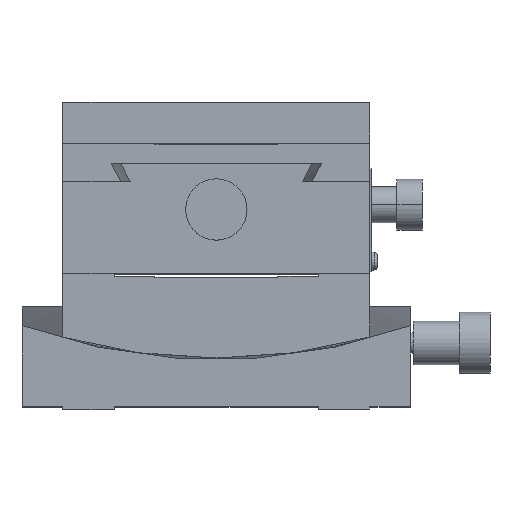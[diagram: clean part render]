
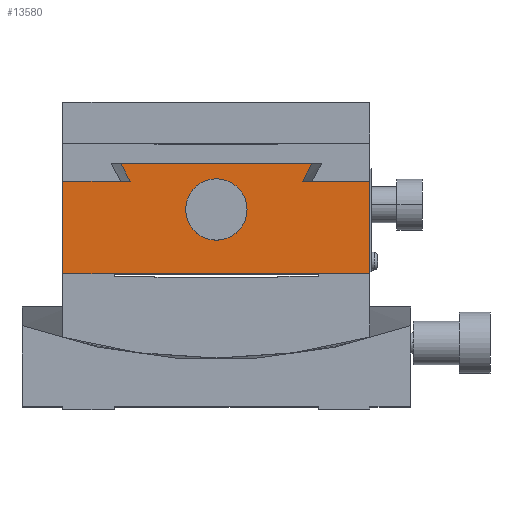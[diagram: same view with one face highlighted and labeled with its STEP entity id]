
A CAD part, top view. The second image highlights one B-rep face of the part: STEP entity #13580.
In plain terms, the highlighted planar face has unit normal (0, 0, 1).
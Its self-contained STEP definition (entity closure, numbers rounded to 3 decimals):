
#11162 = CARTESIAN_POINT ( 'NONE',  ( -16.863, 44.517, 38. ) ) ;
#11163 = DIRECTION ( 'NONE',  ( 1., 0., 0. ) ) ;
#11164 = VECTOR ( 'NONE', #11163, 1000. ) ;
#11165 = CARTESIAN_POINT ( 'NONE',  ( 0., 44.517, 38. ) ) ;
#11166 = LINE ( 'NONE', #11165, #11164 ) ;
#11167 = CARTESIAN_POINT ( 'NONE',  ( -30., 44.517, 38. ) ) ;
#11459 = FACE_BOUND ( 'NONE', #13771, .T. ) ;
#11460 = FACE_OUTER_BOUND ( 'NONE', #13581, .T. ) ;
#11529 = CARTESIAN_POINT ( 'NONE',  ( -18.66, 48., 38. ) ) ;
#11530 = CARTESIAN_POINT ( 'NONE',  ( -18.063, 46.838, 38. ) ) ;
#11531 = CARTESIAN_POINT ( 'NONE',  ( -17.464, 45.677, 38. ) ) ;
#11532 = CARTESIAN_POINT ( 'NONE',  ( -16.863, 44.517, 38. ) ) ;
#11535 = B_SPLINE_CURVE_WITH_KNOTS ( 'NONE', 3,
 ( #11532, #11531, #11530, #11529 ),
 .UNSPECIFIED., .F., .F.,
 ( 4, 4 ),
 ( 0.025, 0.029 ),
 .UNSPECIFIED. ) ;
#11536 = CARTESIAN_POINT ( 'NONE',  ( -18.66, 48., 38. ) ) ;
#11537 = DIRECTION ( 'NONE',  ( 1., 0., 0. ) ) ;
#11538 = VECTOR ( 'NONE', #11537, 1000. ) ;
#11539 = CARTESIAN_POINT ( 'NONE',  ( -30., 48., 38. ) ) ;
#11540 = LINE ( 'NONE', #11539, #11538 ) ;
#11541 = CARTESIAN_POINT ( 'NONE',  ( 16.863, 44.517, 38. ) ) ;
#11542 = CARTESIAN_POINT ( 'NONE',  ( 17.464, 45.677, 38. ) ) ;
#11543 = CARTESIAN_POINT ( 'NONE',  ( 18.063, 46.838, 38. ) ) ;
#11544 = CARTESIAN_POINT ( 'NONE',  ( 18.66, 48., 38. ) ) ;
#11545 = CARTESIAN_POINT ( 'NONE',  ( 18.66, 48., 38. ) ) ;
#11546 = B_SPLINE_CURVE_WITH_KNOTS ( 'NONE', 3,
 ( #11544, #11543, #11542, #11541 ),
 .UNSPECIFIED., .F., .F.,
 ( 4, 4 ),
 ( 0.021, 0.025 ),
 .UNSPECIFIED. ) ;
#11547 = CARTESIAN_POINT ( 'NONE',  ( 16.863, 44.517, 38. ) ) ;
#11548 = DIRECTION ( 'NONE',  ( -1., 0., 0. ) ) ;
#11549 = DIRECTION ( 'NONE',  ( 0., 0., -1. ) ) ;
#11550 = CARTESIAN_POINT ( 'NONE',  ( -30., 26.5, 38. ) ) ;
#11551 = AXIS2_PLACEMENT_3D ( 'NONE', #11550, #11549, #11548 ) ;
#11552 = PLANE ( 'NONE',  #11551 ) ;
#11621 = CARTESIAN_POINT ( 'NONE',  ( 2., 39., 38. ) ) ;
#11691 = CARTESIAN_POINT ( 'NONE',  ( -2., 39., 38. ) ) ;
#11692 = DIRECTION ( 'NONE',  ( -1., 0., 0. ) ) ;
#11693 = DIRECTION ( 'NONE',  ( 0., 0., 1. ) ) ;
#11694 = CARTESIAN_POINT ( 'NONE',  ( 0., 39., 38. ) ) ;
#11695 = AXIS2_PLACEMENT_3D ( 'NONE', #11694, #11693, #11692 ) ;
#11696 = CIRCLE ( 'NONE', #11695, 2. ) ;
#12165 = DIRECTION ( 'NONE',  ( -1., 0., 0. ) ) ;
#12166 = DIRECTION ( 'NONE',  ( 0., 0., 1. ) ) ;
#12167 = CARTESIAN_POINT ( 'NONE',  ( 0., 39., 38. ) ) ;
#12168 = AXIS2_PLACEMENT_3D ( 'NONE', #12167, #12166, #12165 ) ;
#12169 = CIRCLE ( 'NONE', #12168, 2. ) ;
#12170 = DIRECTION ( 'NONE',  ( 1., 0., 0. ) ) ;
#12171 = VECTOR ( 'NONE', #12170, 1000. ) ;
#12172 = CARTESIAN_POINT ( 'NONE',  ( 0., 44.517, 38. ) ) ;
#12173 = LINE ( 'NONE', #12172, #12171 ) ;
#12174 = CARTESIAN_POINT ( 'NONE',  ( 30., 44.517, 38. ) ) ;
#12175 = DIRECTION ( 'NONE',  ( 0., 1., 0. ) ) ;
#12176 = VECTOR ( 'NONE', #12175, 1000. ) ;
#12177 = CARTESIAN_POINT ( 'NONE',  ( 30., 26.5, 38. ) ) ;
#12178 = LINE ( 'NONE', #12177, #12176 ) ;
#12179 = CARTESIAN_POINT ( 'NONE',  ( 30., 26.5, 38. ) ) ;
#12180 = DIRECTION ( 'NONE',  ( 1., 0., 0. ) ) ;
#12181 = VECTOR ( 'NONE', #12180, 1000. ) ;
#12182 = CARTESIAN_POINT ( 'NONE',  ( -30., 26.5, 38. ) ) ;
#12183 = LINE ( 'NONE', #12182, #12181 ) ;
#12184 = CARTESIAN_POINT ( 'NONE',  ( -30., 26.5, 38. ) ) ;
#12185 = DIRECTION ( 'NONE',  ( 0., 1., 0. ) ) ;
#12186 = VECTOR ( 'NONE', #12185, 1000. ) ;
#12187 = CARTESIAN_POINT ( 'NONE',  ( -30., 26.5, 38. ) ) ;
#12188 = LINE ( 'NONE', #12187, #12186 ) ;
#13551 = VERTEX_POINT ( 'NONE', #11167 ) ;
#13553 = EDGE_CURVE ( 'NONE', #13551, #13554, #11166, .T. ) ;
#13554 = VERTEX_POINT ( 'NONE', #11162 ) ;
#13580 = ADVANCED_FACE ( 'NONE', ( #11460, #11459 ), #11552, .F. ) ;
#13581 = EDGE_LOOP ( 'NONE', ( #13582, #13586, #13589, #13591, #13760, #13763, #13766, #13769 ) ) ;
#13582 = ORIENTED_EDGE ( 'NONE', *, *, #13583, .F. ) ;
#13583 = EDGE_CURVE ( 'NONE', #13584, #13585, #11546, .T. ) ;
#13584 = VERTEX_POINT ( 'NONE', #11545 ) ;
#13585 = VERTEX_POINT ( 'NONE', #11547 ) ;
#13586 = ORIENTED_EDGE ( 'NONE', *, *, #13587, .F. ) ;
#13587 = EDGE_CURVE ( 'NONE', #13588, #13584, #11540, .T. ) ;
#13588 = VERTEX_POINT ( 'NONE', #11536 ) ;
#13589 = ORIENTED_EDGE ( 'NONE', *, *, #13590, .F. ) ;
#13590 = EDGE_CURVE ( 'NONE', #13554, #13588, #11535, .T. ) ;
#13591 = ORIENTED_EDGE ( 'NONE', *, *, #13553, .F. ) ;
#13622 = VERTEX_POINT ( 'NONE', #11621 ) ;
#13679 = EDGE_CURVE ( 'NONE', #13622, #13680, #11696, .T. ) ;
#13680 = VERTEX_POINT ( 'NONE', #11691 ) ;
#13760 = ORIENTED_EDGE ( 'NONE', *, *, #13761, .F. ) ;
#13761 = EDGE_CURVE ( 'NONE', #13762, #13551, #12188, .T. ) ;
#13762 = VERTEX_POINT ( 'NONE', #12184 ) ;
#13763 = ORIENTED_EDGE ( 'NONE', *, *, #13764, .T. ) ;
#13764 = EDGE_CURVE ( 'NONE', #13762, #13765, #12183, .T. ) ;
#13765 = VERTEX_POINT ( 'NONE', #12179 ) ;
#13766 = ORIENTED_EDGE ( 'NONE', *, *, #13767, .T. ) ;
#13767 = EDGE_CURVE ( 'NONE', #13765, #13768, #12178, .T. ) ;
#13768 = VERTEX_POINT ( 'NONE', #12174 ) ;
#13769 = ORIENTED_EDGE ( 'NONE', *, *, #13770, .F. ) ;
#13770 = EDGE_CURVE ( 'NONE', #13585, #13768, #12173, .T. ) ;
#13771 = EDGE_LOOP ( 'NONE', ( #13772, #13774 ) ) ;
#13772 = ORIENTED_EDGE ( 'NONE', *, *, #13773, .F. ) ;
#13773 = EDGE_CURVE ( 'NONE', #13680, #13622, #12169, .T. ) ;
#13774 = ORIENTED_EDGE ( 'NONE', *, *, #13679, .F. ) ;
